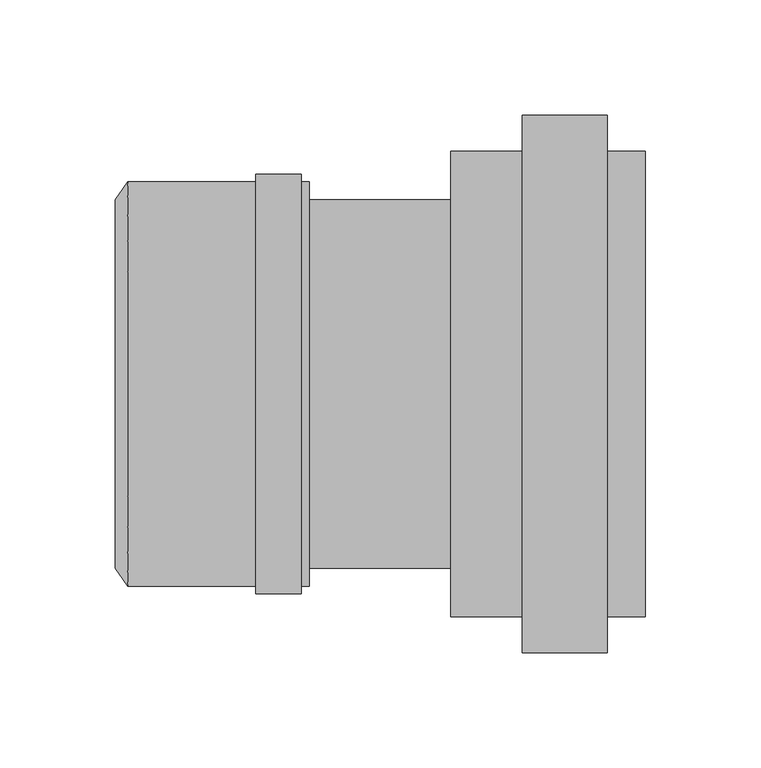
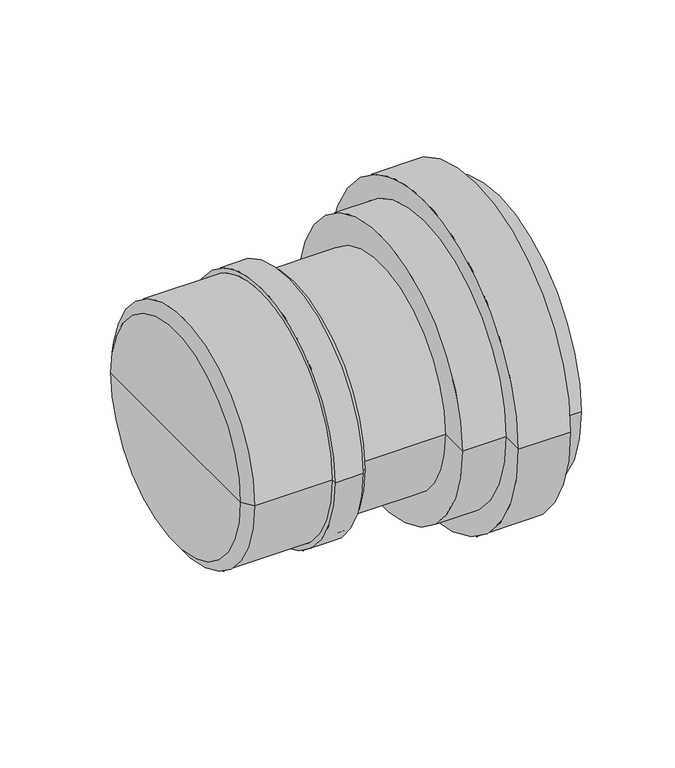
"""IFC4 building model written with IfcOpenShell, lengths in millimetres: pipe fitting geometry, pf_KGUS : pf_KGUS."""

from ifc_helpers import new_model, si_unit, point, frame, origin, origin_2d, place, context, project, spatial, polyline, circle_curve, trimmed, segment, composite_curve, outline, extrude, source, transform, mapped, element, save
from ifc_brep_helpers import plane_surface, cylinder_surface, revolved_surface, advanced_brep


def pipe_fitting_51a074c1(model_context):
    return source(origin(), model_context, "Body", "SolidModel", [
        advanced_brep(
        [(-145.4, 80.0, 0.0), (-145.4, -80.0, 0.0), (-140.0, -87.6, 0.0), (-140.0, 87.6, 0.0), (-145.4, 0.0, 0.0), (-61.4, 87.6, 0.0), (-61.4, -87.6, 0.0), (-61.4, -80.0, 0.0), (-61.4, 80.0, 0.0), (-64.8, 87.6, 0.0), (-64.8, -87.6, 0.0), (-64.8, 91.0, 0.0), (-64.8, -91.0, 0.0), (-84.5, 91.0, 0.0), (-84.5, -91.0, 0.0), (-84.5, 87.6, 0.0), (-84.5, -87.6, 0.0), (-140.0, 80.0, 0.0), (-140.0, -80.0, 0.0), (-140.0, 0.0, 0.0)],
        [
            (0, 1, circle_curve(frame((-145.4, 0.0, 0.0), z_axis=(1.0, 0.0, 0.0), x_axis=(0.0, -1.0, 0.0)), 80.0)),
            (1, 2),
            (2, 3, circle_curve(frame((-140.0, 0.0, 0.0), z_axis=(-1.0, 0.0, 0.0), x_axis=(0.0, -1.0, 0.0)), 87.6)),
            (3, 0),
            (1, 0, circle_curve(frame((-145.4, 0.0, 0.0), z_axis=(1.0, 0.0, 0.0), x_axis=(0.0, -1.0, 0.0)), 80.0)),
            (3, 2, circle_curve(frame((-140.0, 0.0, 0.0), z_axis=(-1.0, 0.0, 0.0), x_axis=(0.0, -1.0, 0.0)), 87.6)),
            (4, 1),
            (0, 4),
            (5, 6, circle_curve(frame((-61.4, 0.0, 0.0), z_axis=(1.0, 0.0, 0.0), x_axis=(0.0, -1.0, 0.0)), 87.6)),
            (6, 7),
            (7, 8, circle_curve(frame((-61.4, 0.0, 0.0), z_axis=(-1.0, 0.0, 0.0), x_axis=(0.0, -1.0, 0.0)), 80.0)),
            (8, 5),
            (6, 5, circle_curve(frame((-61.4, 0.0, 0.0), z_axis=(1.0, 0.0, 0.0), x_axis=(0.0, -1.0, 0.0)), 87.6)),
            (8, 7, circle_curve(frame((-61.4, 0.0, 0.0), z_axis=(-1.0, 0.0, 0.0), x_axis=(0.0, -1.0, 0.0)), 80.0)),
            (9, 10, circle_curve(frame((-64.8, 0.0, 0.0), z_axis=(1.0, 0.0, 0.0), x_axis=(0.0, -1.0, 0.0)), 87.6)),
            (10, 6),
            (5, 9),
            (10, 9, circle_curve(frame((-64.8, 0.0, 0.0), z_axis=(1.0, 0.0, 0.0), x_axis=(0.0, -1.0, 0.0)), 87.6)),
            (11, 12, circle_curve(frame((-64.8, 0.0, 0.0), z_axis=(1.0, 0.0, 0.0), x_axis=(0.0, -1.0, 0.0)), 91.0)),
            (12, 10),
            (9, 11),
            (12, 11, circle_curve(frame((-64.8, 0.0, 0.0), z_axis=(1.0, 0.0, 0.0), x_axis=(0.0, -1.0, 0.0)), 91.0)),
            (13, 14, circle_curve(frame((-84.5, 0.0, 0.0), z_axis=(1.0, 0.0, 0.0), x_axis=(0.0, -1.0, 0.0)), 91.0)),
            (14, 12),
            (11, 13),
            (14, 13, circle_curve(frame((-84.5, 0.0, 0.0), z_axis=(1.0, 0.0, 0.0), x_axis=(0.0, -1.0, 0.0)), 91.0)),
            (15, 16, circle_curve(frame((-84.5, 0.0, 0.0), z_axis=(1.0, 0.0, 0.0), x_axis=(0.0, -1.0, 0.0)), 87.6)),
            (16, 14),
            (13, 15),
            (16, 15, circle_curve(frame((-84.5, 0.0, 0.0), z_axis=(1.0, 0.0, 0.0), x_axis=(0.0, -1.0, 0.0)), 87.6)),
            (2, 16),
            (15, 3),
            (17, 18, circle_curve(frame((-140.0, 0.0, 0.0), z_axis=(1.0, 0.0, 0.0), x_axis=(0.0, -1.0, 0.0)), 80.0)),
            (18, 19),
            (19, 17),
            (18, 17, circle_curve(frame((-140.0, 0.0, 0.0), z_axis=(1.0, 0.0, 0.0), x_axis=(0.0, -1.0, 0.0)), 80.0)),
            (7, 18),
            (17, 8),
        ],
        [
            revolved_surface(polyline([(-140.0, -87.6, 0.0), (-145.4, -80.0, 0.0)]), (-145.4, 0.0, 0.0), (-1.0, 0.0, 0.0)),
            plane_surface(frame((-145.4, 0.0, 0.0), z_axis=(-1.0, 0.0, 0.0), x_axis=(0.0, -1.0, 0.0))),
            plane_surface(frame((-61.4, 0.0, 0.0), z_axis=(1.0, 0.0, 0.0), x_axis=(0.0, -1.0, 0.0))),
            cylinder_surface(frame((-145.4, 0.0, 0.0), z_axis=(-1.0, 0.0, 0.0), x_axis=(0.0, -1.0, 0.0)), 87.6),
            plane_surface(frame((-64.8, 0.0, 0.0), z_axis=(1.0, 0.0, 0.0), x_axis=(0.0, -1.0, 0.0))),
            cylinder_surface(frame((-145.4, 0.0, 0.0), z_axis=(-1.0, 0.0, 0.0), x_axis=(0.0, -1.0, 0.0)), 91.0),
            plane_surface(frame((-84.5, 0.0, 0.0), z_axis=(-1.0, 0.0, 0.0), x_axis=(0.0, -1.0, 0.0))),
            plane_surface(frame((-140.0, 0.0, 0.0), z_axis=(1.0, 0.0, 0.0), x_axis=(0.0, -1.0, 0.0))),
            revolved_surface(polyline([(-140.0, -80.0, 0.0), (-61.400000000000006, -80.0, 0.0)]), (-145.4, 0.0, 0.0), (-1.0, 0.0, 0.0)),
        ],
        [
            (0, [[1, 2, 3, 4]]),
            (0, [[5, -4, 6, -2]]),
            (1, [[7, -1, 8]]),
            (1, [[-8, -5, -7]]),
            (2, [[9, 10, 11, 12]]),
            (2, [[13, -12, 14, -10]]),
            (3, [[15, 16, -9, 17]]),
            (3, [[18, -17, -13, -16]]),
            (4, [[19, 20, -15, 21]]),
            (4, [[22, -21, -18, -20]]),
            (5, [[23, 24, -19, 25]]),
            (5, [[26, -25, -22, -24]]),
            (6, [[27, 28, -23, 29]]),
            (6, [[30, -29, -26, -28]]),
            (3, [[-3, 31, -27, 32]]),
            (3, [[-6, -32, -30, -31]]),
            (7, [[33, 34, 35]]),
            (7, [[36, -35, -34]]),
            (8, [[-11, 37, -33, 38]]),
            (8, [[-14, -38, -36, -37]]),
        ],
    ),
        extrude(outline(composite_curve([segment(trimmed(circle_curve(origin_2d(), 80.0), [point((-80.0, 0.0))], [point((80.0, 0.0))], False, "CARTESIAN"), True, "CONTINUOUS"), segment(trimmed(circle_curve(origin_2d(), 80.0), [point((80.0, 0.0))], [point((-80.0, 0.0))], False, "CARTESIAN"), True, "CONTINUOUS")], self_intersect=False)), frame((-61.4, 0.0, 0.0), z_axis=(1.0, 0.0, 0.0), x_axis=(0.0, 1.0, 0.0)), (0.0, 0.0, 1.0), 61.4),
        advanced_brep(
        [(84.5, -97.0, 0.0), (84.5, 97.0, 0.0), (30.0, 97.0, 0.0), (30.0, -97.0, 0.0), (68.0, -101.0, 0.0), (68.0, 101.0, 0.0), (84.5, 101.0, 0.0), (84.5, -101.0, 0.0), (0.0, 0.0, 0.0), (0.0, 101.0, 0.0), (0.0, -101.0, 0.0), (30.0, 0.0, 0.0), (31.0, -116.5, 0.0), (31.0, 116.5, 0.0), (68.0, 116.5, 0.0), (68.0, -116.5, 0.0), (31.0, 101.0, 0.0), (31.0, -101.0, 0.0)],
        [
            (0, 1, circle_curve(frame((84.5, 0.0, 0.0), z_axis=(1.0, 0.0, 0.0), x_axis=(0.0, 1.0, 0.0)), 97.0)),
            (1, 2),
            (2, 3, circle_curve(frame((30.0, 0.0, 0.0), z_axis=(-1.0, 0.0, 0.0), x_axis=(0.0, 1.0, 0.0)), 97.0)),
            (3, 0),
            (4, 5, circle_curve(frame((68.0, 0.0, 0.0), z_axis=(1.0, 0.0, 0.0), x_axis=(0.0, 1.0, 0.0)), 101.0)),
            (5, 6),
            (6, 7, circle_curve(frame((84.5, 0.0, 0.0), z_axis=(-1.0, 0.0, 0.0), x_axis=(0.0, 1.0, 0.0)), 101.0)),
            (7, 4),
            (8, 9),
            (9, 10, circle_curve(frame((0.0, 0.0, 0.0), z_axis=(-1.0, 0.0, 0.0), x_axis=(0.0, 1.0, 0.0)), 101.0)),
            (10, 8),
            (1, 0, circle_curve(frame((84.5, 0.0, 0.0), z_axis=(1.0, 0.0, 0.0), x_axis=(0.0, 1.0, 0.0)), 97.0)),
            (3, 2, circle_curve(frame((30.0, 0.0, 0.0), z_axis=(-1.0, 0.0, 0.0), x_axis=(0.0, 1.0, 0.0)), 97.0)),
            (5, 4, circle_curve(frame((68.0, 0.0, 0.0), z_axis=(1.0, 0.0, 0.0), x_axis=(0.0, 1.0, 0.0)), 101.0)),
            (7, 6, circle_curve(frame((84.5, 0.0, 0.0), z_axis=(-1.0, 0.0, 0.0), x_axis=(0.0, 1.0, 0.0)), 101.0)),
            (10, 9, circle_curve(frame((0.0, 0.0, 0.0), z_axis=(-1.0, 0.0, 0.0), x_axis=(0.0, 1.0, 0.0)), 101.0)),
            (2, 11),
            (11, 3),
            (6, 1),
            (0, 7),
            (12, 13, circle_curve(frame((31.0, 0.0, 0.0), z_axis=(1.0, 0.0, 0.0), x_axis=(0.0, 1.0, 0.0)), 116.5)),
            (13, 14),
            (14, 15, circle_curve(frame((68.0, 0.0, 0.0), z_axis=(-1.0, 0.0, 0.0), x_axis=(0.0, 1.0, 0.0)), 116.5)),
            (15, 12),
            (13, 12, circle_curve(frame((31.0, 0.0, 0.0), z_axis=(1.0, 0.0, 0.0), x_axis=(0.0, 1.0, 0.0)), 116.5)),
            (15, 14, circle_curve(frame((68.0, 0.0, 0.0), z_axis=(-1.0, 0.0, 0.0), x_axis=(0.0, 1.0, 0.0)), 116.5)),
            (9, 16),
            (16, 17, circle_curve(frame((31.0, 0.0, 0.0), z_axis=(-1.0, 0.0, 0.0), x_axis=(0.0, 1.0, 0.0)), 101.0)),
            (17, 10),
            (17, 16, circle_curve(frame((31.0, 0.0, 0.0), z_axis=(-1.0, 0.0, 0.0), x_axis=(0.0, 1.0, 0.0)), 101.0)),
            (14, 5),
            (4, 15),
            (16, 13),
            (12, 17),
        ],
        [
            revolved_surface(polyline([(30.0, 97.0, 0.0), (84.5, 97.0, 0.0)]), (87.5, 0.0, 0.0), (-1.0, 0.0, 0.0)),
            cylinder_surface(frame((87.5, 0.0, 0.0), z_axis=(-1.0, 0.0, 0.0), x_axis=(0.0, 1.0, 0.0)), 101.0),
            plane_surface(frame((0.0, 0.0, 0.0), z_axis=(-1.0, 0.0, 0.0), x_axis=(0.0, 1.0, 0.0))),
            plane_surface(frame((30.0, 0.0, 0.0), z_axis=(1.0, 0.0, 0.0), x_axis=(0.0, 1.0, 0.0))),
            plane_surface(frame((84.5, 0.0, 0.0), z_axis=(1.0, 0.0, 0.0), x_axis=(0.0, 1.0, 0.0))),
            cylinder_surface(frame((87.5, 0.0, 0.0), z_axis=(-1.0, 0.0, 0.0), x_axis=(0.0, 1.0, 0.0)), 116.5),
            plane_surface(frame((68.0, 0.0, 0.0), z_axis=(1.0, 0.0, 0.0), x_axis=(0.0, 1.0, 0.0))),
            plane_surface(frame((31.0, 0.0, 0.0), z_axis=(-1.0, 0.0, 0.0), x_axis=(0.0, 1.0, 0.0))),
        ],
        [
            (0, [[1, 2, 3, 4]]),
            (1, [[5, 6, 7, 8]]),
            (2, [[9, 10, 11]]),
            (0, [[12, -4, 13, -2]]),
            (1, [[14, -8, 15, -6]]),
            (2, [[-11, 16, -9]]),
            (3, [[-3, 17, 18]]),
            (3, [[-13, -18, -17]]),
            (4, [[-7, 19, -1, 20]]),
            (4, [[-15, -20, -12, -19]]),
            (5, [[21, 22, 23, 24]]),
            (5, [[25, -24, 26, -22]]),
            (1, [[-10, 27, 28, 29]]),
            (1, [[-16, -29, 30, -27]]),
            (6, [[-23, 31, -5, 32]]),
            (6, [[-26, -32, -14, -31]]),
            (7, [[-28, 33, -21, 34]]),
            (7, [[-30, -34, -25, -33]]),
        ],
    ),
    ])


if __name__ == "__main__":
    model = new_model("IFC4")
    model_context = context("Model", 3, world=origin())
    ifc_project = project(units=[si_unit("LENGTHUNIT", "METRE", prefix="MILLI")], contexts=[model_context])
    site = spatial("IfcSite", under=ifc_project)
    building = spatial("IfcBuilding", under=site)
    placement = place(None, origin())
    pipe_fitting_shape = pipe_fitting_51a074c1(model_context)
    element("IfcPipeFitting", 1, ObjectType="pf_KGUS : pf_KGUS", at=placement, inside=building, context=model_context, shape_type="MappedRepresentation", body=[
        mapped(pipe_fitting_shape, transform((0.0, 0.0, 0.0), x_axis=(1.0, 0.0, 0.0), y_axis=(0.0, 1.0, 0.0), z_axis=(0.0, 0.0, 1.0))),
    ])
    save(model, "model.ifc")
